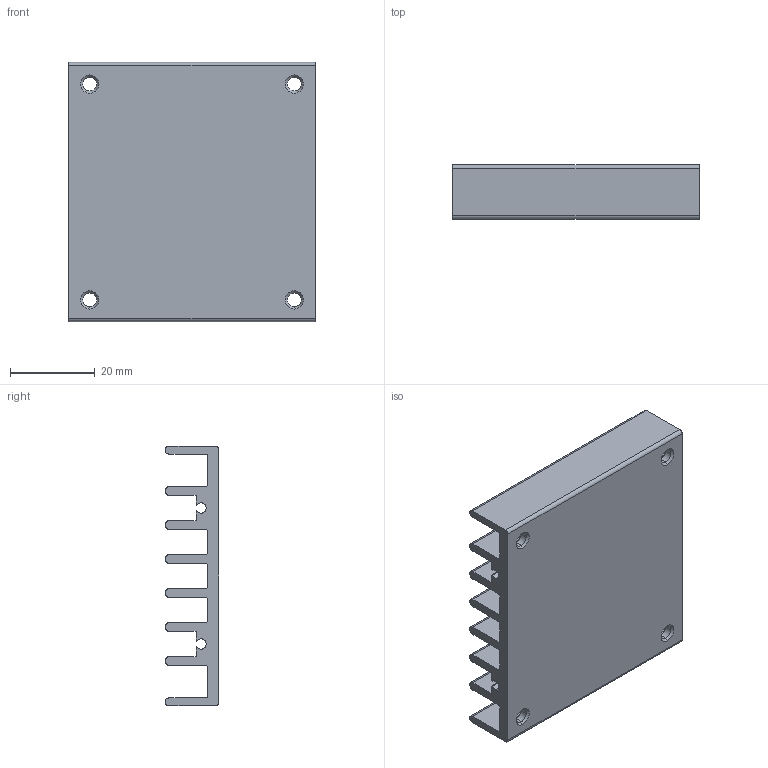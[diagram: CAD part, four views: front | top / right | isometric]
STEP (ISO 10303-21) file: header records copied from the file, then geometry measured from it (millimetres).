
FILE_DESCRIPTION (( 'STEP AP203' ), '1' );
FILE_NAME ('CHB SERIES 鋁擠型散熱片(G6610120402)-M-C091-03-A.STEP', '2022-07-28T02:32:58', ( 'cincon' ), ( '' ), 'SwSTEP 2.0', 'SolidWorks 2020', '' );
FILE_SCHEMA (( 'CONFIG_CONTROL_DESIGN' ));
Length unit declared in the file: millimetre
Products named in the file (1): CHB SERIES 鋁擠型散熱片(G6610120402)-M-C091-03-A
Bounding box: 58 x 12.7 x 61 mm (x, y, z)
Volume: 19953.2 mm3; surface area: 16784.8 mm2
Topology: 1 solids, 1 shells, 86 faces, 236 edges, 152 vertices
Faces by surface type: cylinder 38, plane 32, cone 16
Entity records: 2837 total; most frequent: DIRECTION 502, CARTESIAN_POINT 475, ORIENTED_EDGE 472, EDGE_CURVE 236, AXIS2_PLACEMENT_3D 179, VERTEX_POINT 152, LINE 144, VECTOR 144
